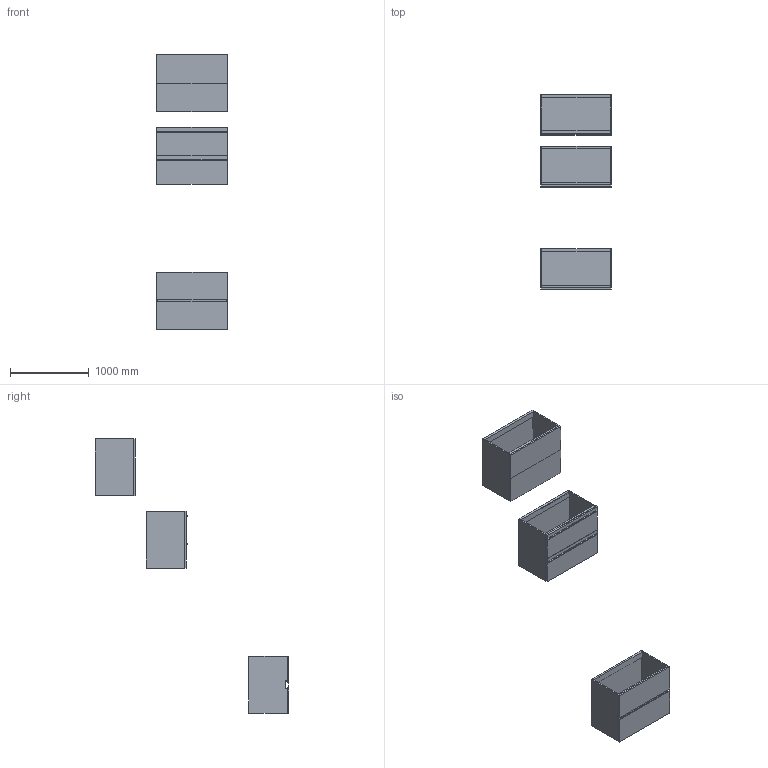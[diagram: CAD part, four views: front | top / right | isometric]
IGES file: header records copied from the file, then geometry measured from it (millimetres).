
Start section: Data from Parasolid IGES Translator 19.0.9, Copyright(c) 2006 Siemens PL M Software. All Rights Reserved.
Global section: file name: noorth-SI-H 72 D 51 W 90_8623.igs; native system: By Siemens PLM Incorporated; preprocessor: XPlus GENERIC/IGES 19.0.9; author: Noname; organization: Noname; date: 20200601.121529; units: metre
Bounding box: 900 x 2458 x 3480.01 mm (x, y, z)
Volume: 103050115.3 mm3; surface area: 15937228.6 mm2
Topology: 27 solids, 27 shells, 266 faces, 580 edges, 348 vertices
Faces by surface type: plane 182, extrusion 36, bspline 32, cylinder 16
